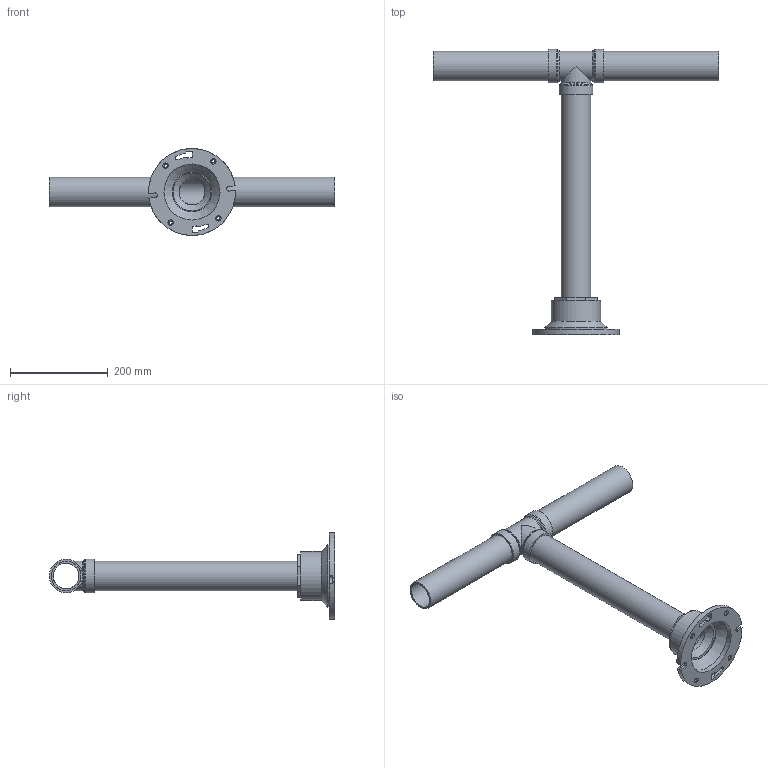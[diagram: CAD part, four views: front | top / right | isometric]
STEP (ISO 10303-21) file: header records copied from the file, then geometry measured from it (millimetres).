
FILE_DESCRIPTION(/* description */ (''),/* implementation_level */ '2;1');
FILE_NAME(/* name */ 'Static Scale.stp',/* time_stamp */ '2024-10-17T18:31:24-04:00',/* author */ ('nicks'),/* organization */ (''),/* preprocessor_version */ 'ST-DEVELOPER v20',/* originating_system */ 'Autodesk Inventor 2024',/* authorisation */ '');
FILE_SCHEMA (('AUTOMOTIVE_DESIGN { 1 0 10303 214 3 1 1 }'));
Length unit declared in the file: inch
Products named in the file (6): Static Scale; 2389K91_Aboveground PVC Fitting for Drain, Waste and Vent; 1608T172_Drain, Waste and Vent ABS Pipe Fitting; 1608T155_Drain, Waste and Vent ABS Pipe Fitting; ABS 2 X 18L; ABS 2 X 10L
Assembly tree (6 placements, depth 2):
  Static Scale
    2389K91_Aboveground PVC Fitting for Drain, Waste and Vent
    1608T172_Drain, Waste and Vent ABS Pipe Fitting
    1608T155_Drain, Waste and Vent ABS Pipe Fitting
    ABS 2 X 18L
    ABS 2 X 10L  x2
Bounding box: 584.2 x 583.63 x 177.8 mm (x, y, z)
Volume: 1166451.8 mm3; surface area: 519235.4 mm2
Topology: 6 solids, 6 shells, 274 faces, 647 edges, 381 vertices
Faces by surface type: cylinder 104, plane 74, torus 31, sphere 24, bspline 24, cone 17
Full cylindrical faces by diameter (mm): 6.35 x4, 52.502 x6, 60.325 x3, 60.579 x1, 60.63 x2, 68.707 x4, 77.724 x1, 88.9 x1, 89.281 x1, 100.457 x1, 114.681 x1, 127.381 x1
Entity records: 9766 total; most frequent: CARTESIAN_POINT 3161, DIRECTION 1445, ORIENTED_EDGE 1270, EDGE_CURVE 635, AXIS2_PLACEMENT_3D 599, VERTEX_POINT 377, CIRCLE 334, EDGE_LOOP 296
